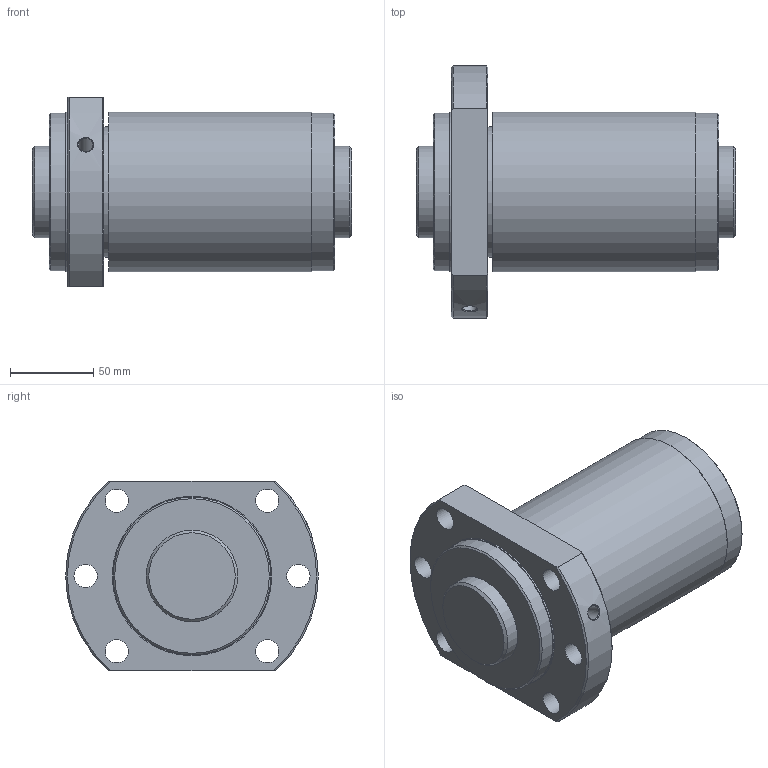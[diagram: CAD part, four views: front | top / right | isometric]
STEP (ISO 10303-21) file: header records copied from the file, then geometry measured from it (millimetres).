
FILE_DESCRIPTION(/* description */ ('STEP AP203'),/* implementation_level */ '2;1');
FILE_NAME(/* name */ 'SBK5536-7.6RRG0+192LC0(0000)',/* time_stamp */ '2024-05-28T11:20:50+02:00',/* author */ ('License CC BY-ND 4.0'),/* organization */ ('CADENAS'),/* preprocessor_version */ 'ST-DEVELOPER v19.3',/* originating_system */ 'PARTsolutions',/* authorisation */ ' ');
FILE_SCHEMA (('CONFIG_CONTROL_DESIGN'));
Length unit declared in the file: millimetre
Products named in the file (3): SBK5536-7.6RRG0+192LC0(0000); NRR000SBK5536-7.60Shaft; NRR000SBK5536-7.6Nut
Assembly tree (2 placements, depth 2):
  SBK5536-7.6RRG0+192LC0(0000)
    NRR000SBK5536-7.60Shaft
    NRR000SBK5536-7.6Nut
Bounding box: 192 x 152 x 114 mm (x, y, z)
Volume: 1440845.2 mm3; surface area: 157726.8 mm2
Topology: 2 solids, 2 shells, 37 faces, 80 edges, 52 vertices
Faces by surface type: cylinder 16, plane 11, cone 10
Full cylindrical faces by diameter (mm): 8.566 x1, 14 x6, 55 x2, 78.528 x1, 95 x2, 96 x2
Entity records: 1020 total; most frequent: CARTESIAN_POINT 183, DIRECTION 168, ORIENTED_EDGE 114, AXIS2_PLACEMENT_3D 80, FACE_BOUND 77, EDGE_LOOP 76, EDGE_CURVE 57, VERTEX_POINT 50
